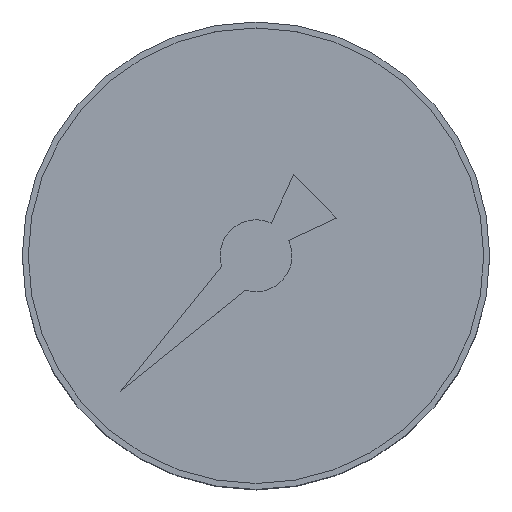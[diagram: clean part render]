
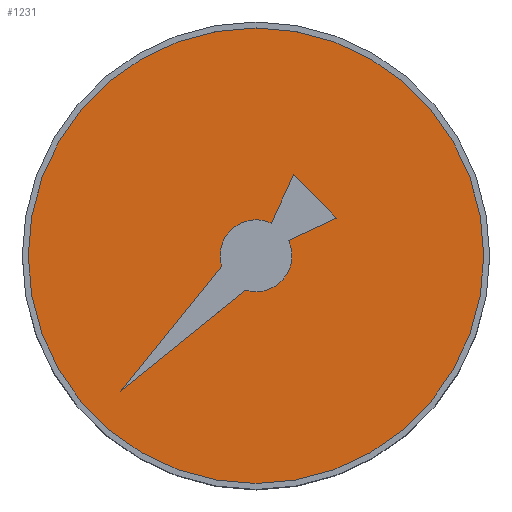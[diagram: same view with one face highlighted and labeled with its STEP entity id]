
A CAD part, top view. The second image highlights one B-rep face of the part: STEP entity #1231.
In plain terms, the highlighted planar face has unit normal (0, 0, 1).
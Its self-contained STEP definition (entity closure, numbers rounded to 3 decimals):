
#451=CARTESIAN_POINT('',(0.,0.,46.5));
#452=DIRECTION('',(0.,0.,1.));
#453=DIRECTION('',(0.,1.,0.));
#454=AXIS2_PLACEMENT_3D('',#451,#452,#453);
#466=CARTESIAN_POINT('',(0.,0.,46.5));
#467=DIRECTION('',(0.,0.,-1.));
#468=DIRECTION('',(0.,1.,0.));
#469=AXIS2_PLACEMENT_3D('',#466,#467,#468);
#481=CARTESIAN_POINT('',(0.,0.,46.5));
#482=DIRECTION('',(0.,0.,1.));
#483=DIRECTION('',(1.,0.,0.));
#484=AXIS2_PLACEMENT_3D('',#481,#482,#483);
#489=CARTESIAN_POINT('',(0.,0.,46.5));
#490=DIRECTION('',(0.,0.,1.));
#491=DIRECTION('',(-1.,0.,0.));
#492=AXIS2_PLACEMENT_3D('',#489,#490,#491);
#722=CARTESIAN_POINT('',(0.,19.,46.5));
#723=CARTESIAN_POINT('',(0.,-19.,46.5));
#724=VERTEX_POINT('',#722);
#725=VERTEX_POINT('',#723);
#778=CARTESIAN_POINT('',(1.,0.,46.5));
#779=CARTESIAN_POINT('',(-1.,0.,46.5));
#780=VERTEX_POINT('',#778);
#781=VERTEX_POINT('',#779);
#1216=CARTESIAN_POINT('',(0.,0.,46.5));
#1217=DIRECTION('',(0.,0.,1.));
#1218=DIRECTION('',(0.,1.,0.));
#1219=AXIS2_PLACEMENT_3D('',#1216,#1217,#1218);
#1220=PLANE('',#1219);
#1221=ORIENTED_EDGE('',*,*,#1210,.T.);
#1222=ORIENTED_EDGE('',*,*,#1196,.F.);
#1223=EDGE_LOOP('',(#1221,#1222));
#1224=FACE_OUTER_BOUND('',#1223,.F.);
#1226=ORIENTED_EDGE('',*,*,#1225,.T.);
#1228=ORIENTED_EDGE('',*,*,#1227,.T.);
#1229=EDGE_LOOP('',(#1226,#1228));
#1230=FACE_BOUND('',#1229,.F.);
#1231=ADVANCED_FACE('',(#1224,#1230),#1220,.T.);
#455=CIRCLE('',#454,19.);
#470=CIRCLE('',#469,19.);
#485=CIRCLE('',#484,1.);
#493=CIRCLE('',#492,1.);
#1196=EDGE_CURVE('',#724,#725,#455,.T.);
#1210=EDGE_CURVE('',#724,#725,#470,.T.);
#1225=EDGE_CURVE('',#780,#781,#485,.T.);
#1227=EDGE_CURVE('',#781,#780,#493,.T.);
